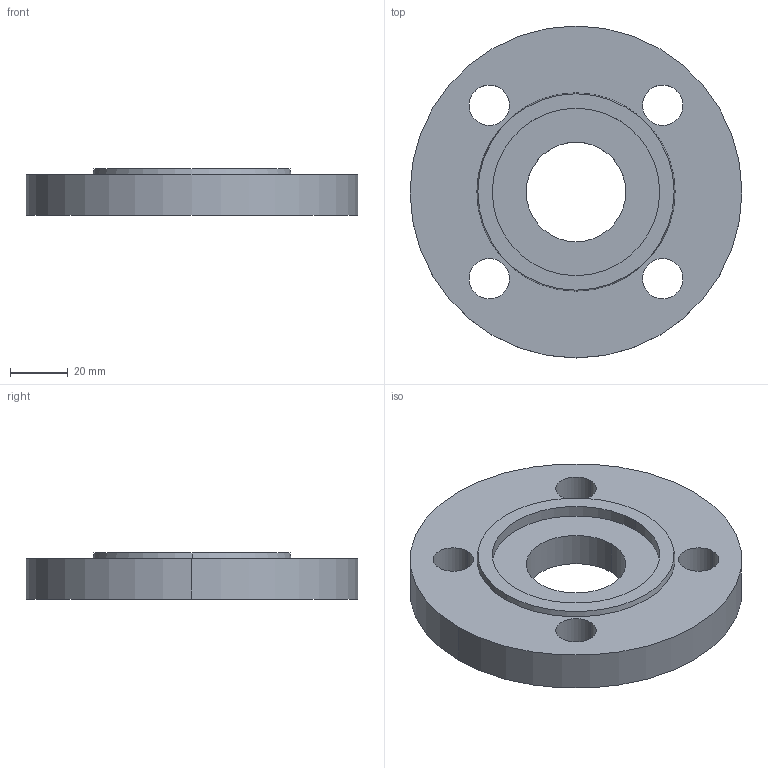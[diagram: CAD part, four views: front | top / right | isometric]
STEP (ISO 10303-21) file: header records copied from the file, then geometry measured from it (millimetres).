
FILE_DESCRIPTION (( 'STEP AP214' ), '1' );
FILE_NAME ('PN40 DN25 Type 01 - Type F Face.STEP', '2018-12-29T20:38:17', ( '' ), ( '' ), 'SwSTEP 2.0', 'SolidWorks 2019', '' );
FILE_SCHEMA (( 'AUTOMOTIVE_DESIGN' ));
Length unit declared in the file: millimetre
Products named in the file (1): PN40 DN25 Type 01 - Type F Face
Bounding box: 115 x 115 x 16 mm (x, y, z)
Volume: 122348.7 mm3; surface area: 27583.4 mm2
Topology: 1 solids, 1 shells, 20 faces, 48 edges, 32 vertices
Faces by surface type: cylinder 14, plane 4, cone 2
Entity records: 658 total; most frequent: DIRECTION 122, CARTESIAN_POINT 101, ORIENTED_EDGE 96, AXIS2_PLACEMENT_3D 53, EDGE_CURVE 48, CIRCLE 32, VERTEX_POINT 32, EDGE_LOOP 32
